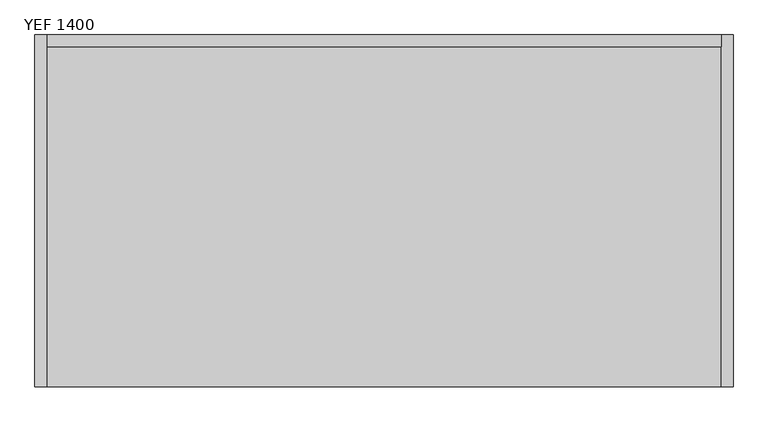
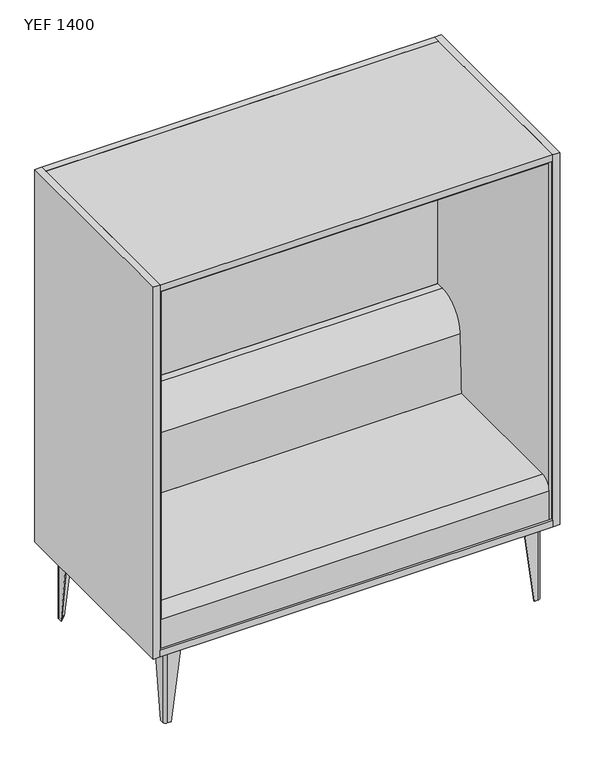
"""IFC4 building model written with IfcOpenShell, lengths in millimetres: furniture geometry, Mobiliário_Mobiliário de Escritório_LinhaYoung_Sofa Enclosure Fechado (Aço) - YEF_Marelli : YEF 1400."""

from ifc_helpers import new_model, si_unit, point, frame, frame_2d, origin, origin_with_axes, place, context, project, spatial, polyline, circle_curve, trimmed, segment, composite_curve, outline, extrude, source, transform, mapped, element, save
from ifc_brep_helpers import plane_surface, cylinder_surface, revolved_surface, advanced_brep


def yef_1400_2cbca0d0(model_context):
    return source(origin(), model_context, "Body", "SolidModel", [
        advanced_brep(
        [(20.0, 75.0, 280.0), (20.0, 25.0, 280.0), (30.0, 15.0, 280.0), (80.0, 15.0, 280.0), (80.0, 18.0, 280.0), (30.0, 18.0, 280.0), (23.0, 25.0, 280.0), (23.0, 75.0, 280.0), (20.0, 39.0, 0.0), (23.0, 39.0, 0.0), (23.0, 25.0, 0.0), (30.0, 18.0, 0.0), (44.0, 18.0, 0.0), (44.0, 15.0, 0.0), (30.0, 15.0, 0.0), (20.0, 25.0, 0.0)],
        [
            (0, 1),
            (1, 2, circle_curve(frame((30.0, 25.0, 280.0), z_axis=(0.0, 0.0, 1.0), x_axis=(0.0, -1.0, 0.0)), 10.0)),
            (2, 3),
            (3, 4),
            (4, 5),
            (5, 6, circle_curve(frame((30.0, 25.0, 280.0), z_axis=(0.0, 0.0, -1.0), x_axis=(-1.0, 0.0, 0.0)), 7.0)),
            (6, 7),
            (7, 0),
            (8, 9),
            (9, 10),
            (10, 11, circle_curve(frame((30.0, 25.0, 0.0), z_axis=(0.0, 0.0, 1.0), x_axis=(-1.0, 0.0, 0.0)), 7.0)),
            (11, 12),
            (12, 13),
            (13, 14),
            (14, 15, circle_curve(frame((30.0, 25.0, 0.0), z_axis=(0.0, 0.0, -1.0), x_axis=(0.0, -1.0, 0.0)), 10.0)),
            (15, 8),
            (15, 1),
            (0, 8),
            (14, 2),
            (13, 3),
            (12, 4),
            (11, 5),
            (10, 6),
            (9, 7),
        ],
        [
            plane_surface(frame((38.25, 33.25, 280.0), z_axis=(0.0, 0.0, 1.0), x_axis=(0.0, -1.0, 0.0))),
            plane_surface(frame((29.25, 24.25, 0.0), z_axis=(0.0, 0.0, -1.0), x_axis=(0.0, -1.0, 0.0))),
            plane_surface(frame((20.0, 32.0, 0.0), z_axis=(-1.0, 0.0, 0.0), x_axis=(0.0, -1.0, 0.0))),
            cylinder_surface(frame((30.0, 25.0, 0.0), z_axis=(0.0, 0.0, 1.0), x_axis=(0.0, -1.0, 0.0)), 10.0),
            plane_surface(frame((37.0, 15.0, 0.0), z_axis=(0.0, -1.0, 0.0), x_axis=(1.0, 0.0, 0.0))),
            plane_surface(frame((44.0, 16.5, 0.0), z_axis=(0.9918357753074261, 0.0, -0.12752174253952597), x_axis=(0.0, 1.0, 0.0))),
            plane_surface(frame((37.0, 18.0, 0.0), z_axis=(0.0, 1.0, 0.0), x_axis=(-1.0, 0.0, 0.0))),
            revolved_surface(polyline([(23.0, 25.0, 280.0), (23.0, 25.0, 0.0)]), (30.0, 25.0, 0.0), (0.0, 0.0, 1.0)),
            plane_surface(frame((23.0, 32.0, 0.0), z_axis=(1.0, 0.0, 0.0), x_axis=(0.0, 1.0, 0.0))),
            plane_surface(frame((21.5, 39.0, 0.0), z_axis=(0.0, 0.9918357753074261, -0.12752174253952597), x_axis=(-1.0, 0.0, 0.0))),
        ],
        [
            (0, [[1, 2, 3, 4, 5, 6, 7, 8]]),
            (1, [[9, 10, 11, 12, 13, 14, 15, 16]]),
            (2, [[-16, 17, -1, 18]]),
            (3, [[-15, 19, -2, -17]]),
            (4, [[-14, 20, -3, -19]]),
            (5, [[-13, 21, -4, -20]]),
            (6, [[-12, 22, -5, -21]]),
            (7, [[-11, 23, -6, -22]]),
            (8, [[-10, 24, -7, -23]]),
            (9, [[-9, -18, -8, -24]]),
        ],
    ),
        advanced_brep(
        [(1380.0, 75.0, 280.0), (1377.0, 75.0, 280.0), (1377.0, 25.0, 280.0), (1370.0, 18.0, 280.0), (1320.0, 18.0, 280.0), (1320.0, 15.0, 280.0), (1370.0, 15.0, 280.0), (1380.0, 25.0, 280.0), (1380.0, 39.0, 0.0), (1380.0, 25.0, 0.0), (1370.0, 15.0, 0.0), (1356.0, 15.0, 0.0), (1356.0, 18.0, 0.0), (1370.0, 18.0, 0.0), (1377.0, 25.0, 0.0), (1377.0, 39.0, 0.0)],
        [
            (0, 1),
            (1, 2),
            (2, 3, circle_curve(frame((1370.0, 25.0, 280.0), z_axis=(0.0, 0.0, -1.0), x_axis=(0.0, -1.0, 0.0)), 7.0)),
            (3, 4),
            (4, 5),
            (5, 6),
            (6, 7, circle_curve(frame((1370.0, 25.0, 280.0), z_axis=(0.0, 0.0, 1.0), x_axis=(1.0, 0.0, 0.0)), 10.0)),
            (7, 0),
            (8, 9),
            (9, 10, circle_curve(frame((1370.0, 25.0, 0.0), z_axis=(0.0, 0.0, -1.0), x_axis=(1.0, 0.0, 0.0)), 10.0)),
            (10, 11),
            (11, 12),
            (12, 13),
            (13, 14, circle_curve(frame((1370.0, 25.0, 0.0), z_axis=(0.0, 0.0, 1.0), x_axis=(0.0, -1.0, 0.0)), 7.0)),
            (14, 15),
            (15, 8),
            (8, 0),
            (7, 9),
            (6, 10),
            (5, 11),
            (4, 12),
            (3, 13),
            (2, 14),
            (1, 15),
        ],
        [
            plane_surface(frame((1361.75, 33.25, 280.0), z_axis=(0.0, 0.0, 1.0), x_axis=(-1.0, 0.0, 0.0))),
            plane_surface(frame((1370.75, 24.25, 0.0), z_axis=(0.0, 0.0, -1.0), x_axis=(-1.0, 0.0, 0.0))),
            plane_surface(frame((1380.0, 32.0, 0.0), z_axis=(1.0, 0.0, 0.0), x_axis=(0.0, 1.0, 0.0))),
            cylinder_surface(frame((1370.0, 25.0, 0.0), z_axis=(0.0, 0.0, 1.0), x_axis=(1.0, 0.0, 0.0)), 10.0),
            plane_surface(frame((1363.0, 15.0, 0.0), z_axis=(0.0, -1.0, 0.0), x_axis=(1.0, 0.0, 0.0))),
            plane_surface(frame((1356.0, 16.5, 0.0), z_axis=(-0.9918357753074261, 0.0, -0.127521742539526), x_axis=(0.0, -1.0, 0.0))),
            plane_surface(frame((1363.0, 18.0, 0.0), z_axis=(0.0, 1.0, 0.0), x_axis=(-1.0, 0.0, 0.0))),
            revolved_surface(polyline([(1370.0, 18.0, 280.0), (1370.0, 18.0, 0.0)]), (1370.0, 25.0, 0.0), (0.0, 0.0, 1.0)),
            plane_surface(frame((1377.0, 32.0, 0.0), z_axis=(-1.0, 0.0, 0.0), x_axis=(0.0, -1.0, 0.0))),
            plane_surface(frame((1378.5, 39.0, 0.0), z_axis=(0.0, 0.9918357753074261, -0.12752174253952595), x_axis=(-1.0, 0.0, 0.0))),
        ],
        [
            (0, [[1, 2, 3, 4, 5, 6, 7, 8]]),
            (1, [[9, 10, 11, 12, 13, 14, 15, 16]]),
            (2, [[-9, 17, -8, 18]]),
            (3, [[-10, -18, -7, 19]]),
            (4, [[-11, -19, -6, 20]]),
            (5, [[-12, -20, -5, 21]]),
            (6, [[-13, -21, -4, 22]]),
            (7, [[-14, -22, -3, 23]]),
            (8, [[-15, -23, -2, 24]]),
            (9, [[-16, -24, -1, -17]]),
        ],
    ),
        advanced_brep(
        [(20.0, 625.0, 280.0), (23.0, 625.0, 280.0), (23.0, 675.0, 280.0), (30.0, 682.0, 280.0), (80.0, 682.0, 280.0), (80.0, 685.0, 280.0), (30.0, 685.0, 280.0), (20.0, 675.0, 280.0), (20.0, 661.0, 0.0), (20.0, 675.0, 0.0), (30.0, 685.0, 0.0), (44.0, 685.0, 0.0), (44.0, 682.0, 0.0), (30.0, 682.0, 0.0), (23.0, 675.0, 0.0), (23.0, 661.0, 0.0)],
        [
            (0, 1),
            (1, 2),
            (2, 3, circle_curve(frame((30.0, 675.0, 280.0), z_axis=(0.0, 0.0, -1.0), x_axis=(0.0, 1.0, 0.0)), 7.0)),
            (3, 4),
            (4, 5),
            (5, 6),
            (6, 7, circle_curve(frame((30.0, 675.0, 280.0), z_axis=(0.0, 0.0, 1.0), x_axis=(-1.0, 0.0, 0.0)), 10.0)),
            (7, 0),
            (8, 9),
            (9, 10, circle_curve(frame((30.0, 675.0, 0.0), z_axis=(0.0, 0.0, -1.0), x_axis=(-1.0, 0.0, 0.0)), 10.0)),
            (10, 11),
            (11, 12),
            (12, 13),
            (13, 14, circle_curve(frame((30.0, 675.0, 0.0), z_axis=(0.0, 0.0, 1.0), x_axis=(0.0, 1.0, 0.0)), 7.0)),
            (14, 15),
            (15, 8),
            (8, 0),
            (7, 9),
            (6, 10),
            (5, 11),
            (4, 12),
            (3, 13),
            (2, 14),
            (1, 15),
        ],
        [
            plane_surface(frame((38.25, 666.75, 280.0), z_axis=(0.0, 0.0, 1.0), x_axis=(1.0, 0.0, 0.0))),
            plane_surface(frame((29.25, 675.75, 0.0), z_axis=(0.0, 0.0, -1.0), x_axis=(1.0, 0.0, 0.0))),
            plane_surface(frame((20.0, 668.0, 0.0), z_axis=(-1.0, 0.0, 0.0), x_axis=(0.0, -1.0, 0.0))),
            cylinder_surface(frame((30.0, 675.0, 0.0), z_axis=(0.0, 0.0, 1.0), x_axis=(-1.0, 0.0, 0.0)), 10.0),
            plane_surface(frame((37.0, 685.0, 0.0), z_axis=(0.0, 1.0, 0.0), x_axis=(-1.0, 0.0, 0.0))),
            plane_surface(frame((44.0, 683.5, 0.0), z_axis=(0.9918357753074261, 0.0, -0.12752174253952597), x_axis=(0.0, 1.0, 0.0))),
            plane_surface(frame((37.0, 682.0, 0.0), z_axis=(0.0, -1.0, 0.0), x_axis=(1.0, 0.0, 0.0))),
            revolved_surface(polyline([(30.0, 682.0, 280.0), (30.0, 682.0, 0.0)]), (30.0, 675.0, 0.0), (0.0, 0.0, 1.0)),
            plane_surface(frame((23.0, 668.0, 0.0), z_axis=(1.0, 0.0, 0.0), x_axis=(0.0, 1.0, 0.0))),
            plane_surface(frame((21.5, 661.0, 0.0), z_axis=(0.0, -0.9918357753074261, -0.127521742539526), x_axis=(1.0, 0.0, 0.0))),
        ],
        [
            (0, [[1, 2, 3, 4, 5, 6, 7, 8]]),
            (1, [[9, 10, 11, 12, 13, 14, 15, 16]]),
            (2, [[-9, 17, -8, 18]]),
            (3, [[-10, -18, -7, 19]]),
            (4, [[-11, -19, -6, 20]]),
            (5, [[-12, -20, -5, 21]]),
            (6, [[-13, -21, -4, 22]]),
            (7, [[-14, -22, -3, 23]]),
            (8, [[-15, -23, -2, 24]]),
            (9, [[-16, -24, -1, -17]]),
        ],
    ),
        advanced_brep(
        [(1380.0, 625.0, 280.0), (1380.0, 675.0, 280.0), (1370.0, 685.0, 280.0), (1320.0, 685.0, 280.0), (1320.0, 682.0, 280.0), (1370.0, 682.0, 280.0), (1377.0, 675.0, 280.0), (1377.0, 625.0, 280.0), (1380.0, 661.0, 0.0), (1377.0, 661.0, 0.0), (1377.0, 675.0, 0.0), (1370.0, 682.0, 0.0), (1356.0, 682.0, 0.0), (1356.0, 685.0, 0.0), (1370.0, 685.0, 0.0), (1380.0, 675.0, 0.0)],
        [
            (0, 1),
            (1, 2, circle_curve(frame((1370.0, 675.0, 280.0), z_axis=(0.0, 0.0, 1.0), x_axis=(0.0, 1.0, 0.0)), 10.0)),
            (2, 3),
            (3, 4),
            (4, 5),
            (5, 6, circle_curve(frame((1370.0, 675.0, 280.0), z_axis=(0.0, 0.0, -1.0), x_axis=(1.0, 0.0, 0.0)), 7.0)),
            (6, 7),
            (7, 0),
            (8, 9),
            (9, 10),
            (10, 11, circle_curve(frame((1370.0, 675.0, 0.0), z_axis=(0.0, 0.0, 1.0), x_axis=(1.0, 0.0, 0.0)), 7.0)),
            (11, 12),
            (12, 13),
            (13, 14),
            (14, 15, circle_curve(frame((1370.0, 675.0, 0.0), z_axis=(0.0, 0.0, -1.0), x_axis=(0.0, 1.0, 0.0)), 10.0)),
            (15, 8),
            (15, 1),
            (0, 8),
            (14, 2),
            (13, 3),
            (12, 4),
            (11, 5),
            (10, 6),
            (9, 7),
        ],
        [
            plane_surface(frame((1361.75, 666.75, 280.0), z_axis=(0.0, 0.0, 1.0), x_axis=(0.0, 1.0, 0.0))),
            plane_surface(frame((1370.75, 675.75, 0.0), z_axis=(0.0, 0.0, -1.0), x_axis=(0.0, 1.0, 0.0))),
            plane_surface(frame((1380.0, 668.0, 0.0), z_axis=(1.0, 0.0, 0.0), x_axis=(0.0, 1.0, 0.0))),
            cylinder_surface(frame((1370.0, 675.0, 0.0), z_axis=(0.0, 0.0, 1.0), x_axis=(0.0, 1.0, 0.0)), 10.0),
            plane_surface(frame((1363.0, 685.0, 0.0), z_axis=(0.0, 1.0, 0.0), x_axis=(-1.0, 0.0, 0.0))),
            plane_surface(frame((1356.0, 683.5, 0.0), z_axis=(-0.9918357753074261, 0.0, -0.127521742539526), x_axis=(0.0, -1.0, 0.0))),
            plane_surface(frame((1363.0, 682.0, 0.0), z_axis=(0.0, -1.0, 0.0), x_axis=(1.0, 0.0, 0.0))),
            revolved_surface(polyline([(1377.0, 675.0, 280.0), (1377.0, 675.0, 0.0)]), (1370.0, 675.0, 0.0), (0.0, 0.0, 1.0)),
            plane_surface(frame((1377.0, 668.0, 0.0), z_axis=(-1.0, 0.0, 0.0), x_axis=(0.0, -1.0, 0.0))),
            plane_surface(frame((1378.5, 661.0, 0.0), z_axis=(0.0, -0.9918357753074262, -0.12752174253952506), x_axis=(1.0, 0.0, 0.0))),
        ],
        [
            (0, [[1, 2, 3, 4, 5, 6, 7, 8]]),
            (1, [[9, 10, 11, 12, 13, 14, 15, 16]]),
            (2, [[-16, 17, -1, 18]]),
            (3, [[-15, 19, -2, -17]]),
            (4, [[-14, 20, -3, -19]]),
            (5, [[-13, 21, -4, -20]]),
            (6, [[-12, 22, -5, -21]]),
            (7, [[-11, 23, -6, -22]]),
            (8, [[-10, 24, -7, -23]]),
            (9, [[-9, -18, -8, -24]]),
        ],
    ),
        extrude(outline(composite_curve([segment(polyline([(23.0, 39.0), (44.0, 18.0), (30.0, 18.0)]), True, "CONTINUOUS"), segment(trimmed(circle_curve(frame_2d((30.0, 25.0)), 7.0), [point((30.0, 18.0))], [point((23.0, 25.0))], False, "CARTESIAN"), True, "CONTINUOUS"), segment(polyline([(23.0, 25.0), (23.0, 39.0)]), True, "CONTINUOUS")], self_intersect=False)), origin_with_axes(), (0.0, 0.0, 1.0), 1.0),
        extrude(outline(composite_curve([segment(polyline([(23.0, 661.0), (23.0, 675.0)]), True, "CONTINUOUS"), segment(trimmed(circle_curve(frame_2d((30.0, 675.0)), 7.0), [point((23.0, 675.0))], [point((30.0, 682.0))], False, "CARTESIAN"), True, "CONTINUOUS"), segment(polyline([(30.0, 682.0), (44.0, 682.0), (23.0, 661.0)]), True, "CONTINUOUS")], self_intersect=False)), origin_with_axes(), (0.0, 0.0, 1.0), 1.0),
        extrude(outline(composite_curve([segment(polyline([(1377.0, 39.0), (1377.0, 25.0)]), True, "CONTINUOUS"), segment(trimmed(circle_curve(frame_2d((1370.0, 25.0)), 7.0), [point((1377.0, 25.0))], [point((1370.0, 18.0))], False, "CARTESIAN"), True, "CONTINUOUS"), segment(polyline([(1370.0, 18.0), (1356.0, 18.0), (1377.0, 39.0)]), True, "CONTINUOUS")], self_intersect=False)), origin_with_axes(), (0.0, 0.0, 1.0), 1.0),
        extrude(outline(composite_curve([segment(polyline([(1377.0, 661.0), (1356.0, 682.0), (1370.0, 682.0)]), True, "CONTINUOUS"), segment(trimmed(circle_curve(frame_2d((1370.0, 675.0)), 7.0), [point((1370.0, 682.0))], [point((1377.0, 675.0))], False, "CARTESIAN"), True, "CONTINUOUS"), segment(polyline([(1377.0, 675.0), (1377.0, 661.0)]), True, "CONTINUOUS")], self_intersect=False)), origin_with_axes(), (0.0, 0.0, 1.0), 1.0),
        extrude(outline(composite_curve([segment(trimmed(circle_curve(frame_2d((30.0, 25.0)), 7.0), [point((30.0, 18.0))], [point((23.0, 25.0))], False, "CARTESIAN"), True, "CONTINUOUS"), segment(polyline([(23.0, 25.0), (23.0, 93.0)]), True, "CONTINUOUS"), segment(trimmed(circle_curve(frame_2d((28.0, 93.0)), 5.0), [point((23.0, 93.0))], [point((28.0, 98.0))], False, "CARTESIAN"), True, "CONTINUOUS"), segment(polyline([(28.0, 98.0), (51.9545624, 98.0)]), True, "CONTINUOUS"), segment(trimmed(circle_curve(frame_2d((52.6241051, 89.931755)), 8.0959783), [point((51.9545624, 98.0))], [point((58.520382, 95.479618))], False, "CARTESIAN"), True, "CONTINUOUS"), segment(polyline([(58.520382, 95.479618), (100.479618, 53.520382)]), True, "CONTINUOUS"), segment(trimmed(circle_curve(frame_2d((94.931755, 47.6241051)), 8.0959783), [point((100.479618, 53.520382))], [point((103.0, 46.9545624))], False, "CARTESIAN"), True, "CONTINUOUS"), segment(polyline([(103.0, 46.9545624), (103.0, 23.0)]), True, "CONTINUOUS"), segment(trimmed(circle_curve(frame_2d((98.0, 23.0)), 5.0), [point((103.0, 23.0))], [point((98.0, 18.0))], False, "CARTESIAN"), True, "CONTINUOUS"), segment(polyline([(98.0, 18.0), (30.0, 18.0)]), True, "CONTINUOUS")], self_intersect=False)), frame((0.0, 0.0, 279.0), z_axis=(0.0, 0.0, 1.0), x_axis=(1.0, 0.0, 0.0)), (0.0, 0.0, 1.0), 1.0),
        extrude(outline(composite_curve([segment(polyline([(30.0, 682.0), (98.0, 682.0)]), True, "CONTINUOUS"), segment(trimmed(circle_curve(frame_2d((98.0, 677.0)), 5.0), [point((98.0, 682.0))], [point((103.0, 677.0))], False, "CARTESIAN"), True, "CONTINUOUS"), segment(polyline([(103.0, 677.0), (103.0, 653.0454376)]), True, "CONTINUOUS"), segment(trimmed(circle_curve(frame_2d((94.931755, 652.3758949)), 8.0959783), [point((103.0, 653.0454376))], [point((100.479618, 646.479618))], False, "CARTESIAN"), True, "CONTINUOUS"), segment(polyline([(100.479618, 646.479618), (58.520382, 604.520382)]), True, "CONTINUOUS"), segment(trimmed(circle_curve(frame_2d((52.6241051, 610.068245)), 8.0959783), [point((58.520382, 604.520382))], [point((51.9545624, 602.0))], False, "CARTESIAN"), True, "CONTINUOUS"), segment(polyline([(51.9545624, 602.0), (28.0, 602.0)]), True, "CONTINUOUS"), segment(trimmed(circle_curve(frame_2d((28.0, 607.0)), 5.0), [point((28.0, 602.0))], [point((23.0, 607.0))], False, "CARTESIAN"), True, "CONTINUOUS"), segment(polyline([(23.0, 607.0), (23.0, 675.0)]), True, "CONTINUOUS"), segment(trimmed(circle_curve(frame_2d((30.0, 675.0)), 7.0), [point((23.0, 675.0))], [point((30.0, 682.0))], False, "CARTESIAN"), True, "CONTINUOUS")], self_intersect=False)), frame((0.0, 0.0, 279.0), z_axis=(0.0, 0.0, 1.0), x_axis=(1.0, 0.0, 0.0)), (0.0, 0.0, 1.0), 1.0),
        extrude(outline(composite_curve([segment(polyline([(1370.0, 18.0), (1302.0, 18.0)]), True, "CONTINUOUS"), segment(trimmed(circle_curve(frame_2d((1302.0, 23.0)), 5.0), [point((1302.0, 18.0))], [point((1297.0, 23.0))], False, "CARTESIAN"), True, "CONTINUOUS"), segment(polyline([(1297.0, 23.0), (1297.0, 46.9545624)]), True, "CONTINUOUS"), segment(trimmed(circle_curve(frame_2d((1305.068245, 47.6241051)), 8.0959783), [point((1297.0, 46.9545624))], [point((1299.520382, 53.520382))], False, "CARTESIAN"), True, "CONTINUOUS"), segment(polyline([(1299.520382, 53.520382), (1341.479618, 95.479618)]), True, "CONTINUOUS"), segment(trimmed(circle_curve(frame_2d((1347.3758949, 89.931755)), 8.0959783), [point((1341.479618, 95.479618))], [point((1348.0454376, 98.0))], False, "CARTESIAN"), True, "CONTINUOUS"), segment(polyline([(1348.0454376, 98.0), (1372.0, 98.0)]), True, "CONTINUOUS"), segment(trimmed(circle_curve(frame_2d((1372.0, 93.0)), 5.0), [point((1372.0, 98.0))], [point((1377.0, 93.0))], False, "CARTESIAN"), True, "CONTINUOUS"), segment(polyline([(1377.0, 93.0), (1377.0, 25.0)]), True, "CONTINUOUS"), segment(trimmed(circle_curve(frame_2d((1370.0, 25.0)), 7.0), [point((1377.0, 25.0))], [point((1370.0, 18.0))], False, "CARTESIAN"), True, "CONTINUOUS")], self_intersect=False)), frame((0.0, 0.0, 279.0), z_axis=(0.0, 0.0, 1.0), x_axis=(1.0, 0.0, 0.0)), (0.0, 0.0, 1.0), 1.0),
        extrude(outline(composite_curve([segment(trimmed(circle_curve(frame_2d((1370.0, 675.0)), 7.0), [point((1370.0, 682.0))], [point((1377.0, 675.0))], False, "CARTESIAN"), True, "CONTINUOUS"), segment(polyline([(1377.0, 675.0), (1377.0, 607.0)]), True, "CONTINUOUS"), segment(trimmed(circle_curve(frame_2d((1372.0, 607.0)), 5.0), [point((1377.0, 607.0))], [point((1372.0, 602.0))], False, "CARTESIAN"), True, "CONTINUOUS"), segment(polyline([(1372.0, 602.0), (1348.0454376, 602.0)]), True, "CONTINUOUS"), segment(trimmed(circle_curve(frame_2d((1347.3758949, 610.068245)), 8.0959783), [point((1348.0454376, 602.0))], [point((1341.479618, 604.520382))], False, "CARTESIAN"), True, "CONTINUOUS"), segment(polyline([(1341.479618, 604.520382), (1299.520382, 646.479618)]), True, "CONTINUOUS"), segment(trimmed(circle_curve(frame_2d((1305.068245, 652.3758949)), 8.0959783), [point((1299.520382, 646.479618))], [point((1297.0, 653.0454376))], False, "CARTESIAN"), True, "CONTINUOUS"), segment(polyline([(1297.0, 653.0454376), (1297.0, 677.0)]), True, "CONTINUOUS"), segment(trimmed(circle_curve(frame_2d((1302.0, 677.0)), 5.0), [point((1297.0, 677.0))], [point((1302.0, 682.0))], False, "CARTESIAN"), True, "CONTINUOUS"), segment(polyline([(1302.0, 682.0), (1370.0, 682.0)]), True, "CONTINUOUS")], self_intersect=False)), frame((0.0, 0.0, 279.0), z_axis=(0.0, 0.0, 1.0), x_axis=(1.0, 0.0, 0.0)), (0.0, 0.0, 1.0), 1.0),
        extrude(outline(composite_curve([segment(polyline([(547.0, 455.0), (547.0, 305.0), (0.0, 305.0), (0.0, 415.0)]), True, "CONTINUOUS"), segment(trimmed(circle_curve(frame_2d((40.0, 415.0)), 40.0), [point((0.0, 415.0))], [point((40.0, 455.0))], False, "CARTESIAN"), True, "CONTINUOUS"), segment(polyline([(40.0, 455.0), (547.0, 455.0)]), True, "CONTINUOUS")], self_intersect=False)), frame((0.0, 0.0, 0.0), z_axis=(1.0, 0.0, 0.0), x_axis=(0.0, 1.0, 0.0)), (0.0, 0.0, 1.0), 1400.0),
        extrude(outline(polyline([(1409.0, -9.0), (-9.0, -9.0), (-9.0, 706.0), (1409.0, 706.0), (1409.0, -9.0)])), frame((0.0, 0.0, 280.0), z_axis=(0.0, 0.0, 1.0), x_axis=(1.0, 0.0, 0.0)), (0.0, 0.0, 1.0), 25.0),
        extrude(outline(polyline([(-9.0, 0.0), (-9.0, 706.0), (0.0, 706.0), (0.0, 0.0), (-9.0, 0.0)])), frame((0.0, 0.0, 305.0), z_axis=(0.0, 0.0, 1.0), x_axis=(1.0, 0.0, 0.0)), (0.0, 0.0, 1.0), 1370.0),
        extrude(outline(polyline([(-9.0, -9.0), (-34.0, -9.0), (-34.0, 731.0), (-9.0, 731.0), (-9.0, -9.0)])), frame((0.0, 0.0, 280.0), z_axis=(0.0, 0.0, 1.0), x_axis=(1.0, 0.0, 0.0)), (0.0, 0.0, 1.0), 1420.0),
        extrude(outline(polyline([(1409.0, 706.0), (-9.0, 706.0), (-9.0, 731.0), (1409.0, 731.0), (1409.0, 706.0)])), frame((0.0, 0.0, 280.0), z_axis=(0.0, 0.0, 1.0), x_axis=(1.0, 0.0, 0.0)), (0.0, 0.0, 1.0), 1420.0),
        extrude(outline(polyline([(1409.0, -9.0), (1409.0, 731.0), (1434.0, 731.0), (1434.0, -9.0), (1409.0, -9.0)])), frame((0.0, 0.0, 280.0), z_axis=(0.0, 0.0, 1.0), x_axis=(1.0, 0.0, 0.0)), (0.0, 0.0, 1.0), 1420.0),
        extrude(outline(polyline([(1409.0, 0.0), (1400.0, 0.0), (1400.0, 706.0), (1409.0, 706.0), (1409.0, 0.0)])), frame((0.0, 0.0, 305.0), z_axis=(0.0, 0.0, 1.0), x_axis=(1.0, 0.0, 0.0)), (0.0, 0.0, 1.0), 1370.0),
        extrude(outline(polyline([(1409.0, -9.0), (-9.0, -9.0), (-9.0, 706.0), (1409.0, 706.0), (1409.0, -9.0)])), frame((0.0, 0.0, 1675.0), z_axis=(0.0, 0.0, 1.0), x_axis=(1.0, 0.0, 0.0)), (0.0, 0.0, 1.0), 25.0),
        extrude(outline(polyline([(1400.0, 0.0), (0.0, 0.0), (0.0, 706.0), (1400.0, 706.0), (1400.0, 0.0)])), frame((0.0, 0.0, 1666.0), z_axis=(0.0, 0.0, 1.0), x_axis=(1.0, 0.0, 0.0)), (0.0, 0.0, 1.0), 9.0),
        extrude(outline(polyline([(1400.0, 706.0), (1400.0, 697.0), (0.0, 697.0), (0.0, 706.0), (1400.0, 706.0)])), frame((0.0, 0.0, 305.0), z_axis=(0.0, 0.0, 1.0), x_axis=(1.0, 0.0, 0.0)), (0.0, 0.0, 1.0), 1361.0),
        extrude(outline(composite_curve([segment(polyline([(697.0, 781.802426), (697.0, 305.0), (547.0, 305.0), (547.0, 455.0), (555.2568376, 679.223651)]), True, "CONTINUOUS"), segment(trimmed(circle_curve(frame_2d((665.0, 675.1824561)), 109.8175439), [point((555.2568376, 679.223651))], [point((665.0, 785.0))], False, "CARTESIAN"), True, "CONTINUOUS"), segment(polyline([(665.0, 785.0), (693.802426, 785.0)]), True, "CONTINUOUS"), segment(trimmed(circle_curve(frame_2d((693.802426, 781.802426)), 3.197574), [point((693.802426, 785.0))], [point((697.0, 781.802426))], False, "CARTESIAN"), True, "CONTINUOUS")], self_intersect=False)), frame((0.0, 0.0, 0.0), z_axis=(1.0, 0.0, 0.0), x_axis=(0.0, 1.0, 0.0)), (0.0, 0.0, 1.0), 1400.0),
    ])


if __name__ == "__main__":
    model = new_model("IFC4")
    model_context = context("Model", 3, world=origin())
    ifc_project = project(units=[si_unit("LENGTHUNIT", "METRE", prefix="MILLI")], contexts=[model_context])
    site = spatial("IfcSite", under=ifc_project)
    building = spatial("IfcBuilding", under=site)
    placement = place(None, origin())
    yef_1400_shape = yef_1400_2cbca0d0(model_context)
    element("IfcFurniture", 1, ObjectType="Mobiliário_Mobiliário de Escritório_LinhaYoung_Sofa Enclosure Fechado (Aço) - YEF_Marelli : YEF 1400", at=placement, inside=building, context=model_context, shape_type="MappedRepresentation", body=[
        mapped(yef_1400_shape, transform((0.0, 0.0, 0.0), x_axis=(1.0, 0.0, 0.0), y_axis=(0.0, 1.0, 0.0), z_axis=(0.0, 0.0, 1.0))),
    ])
    save(model, "model.ifc")
